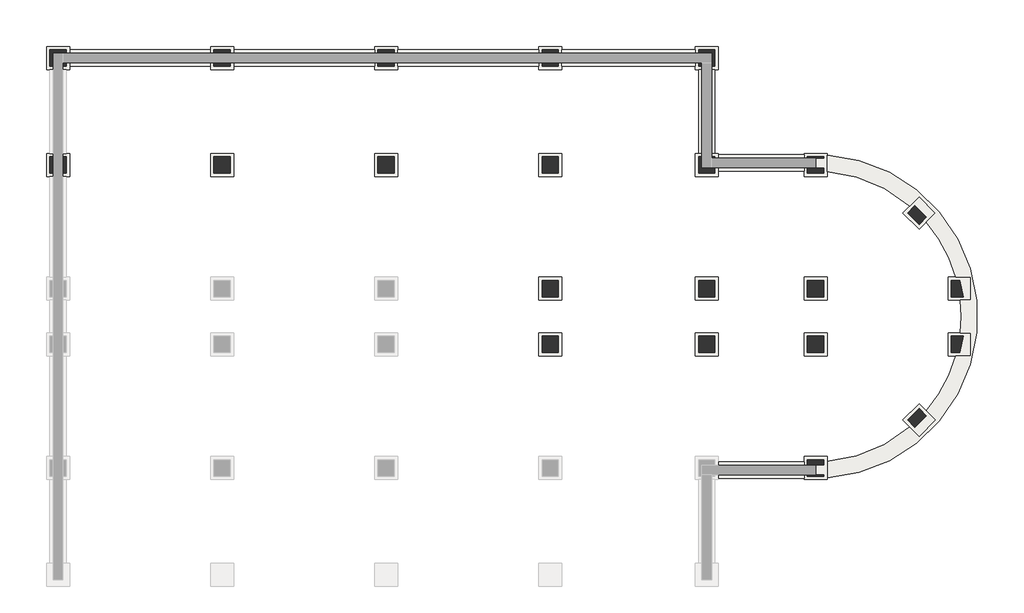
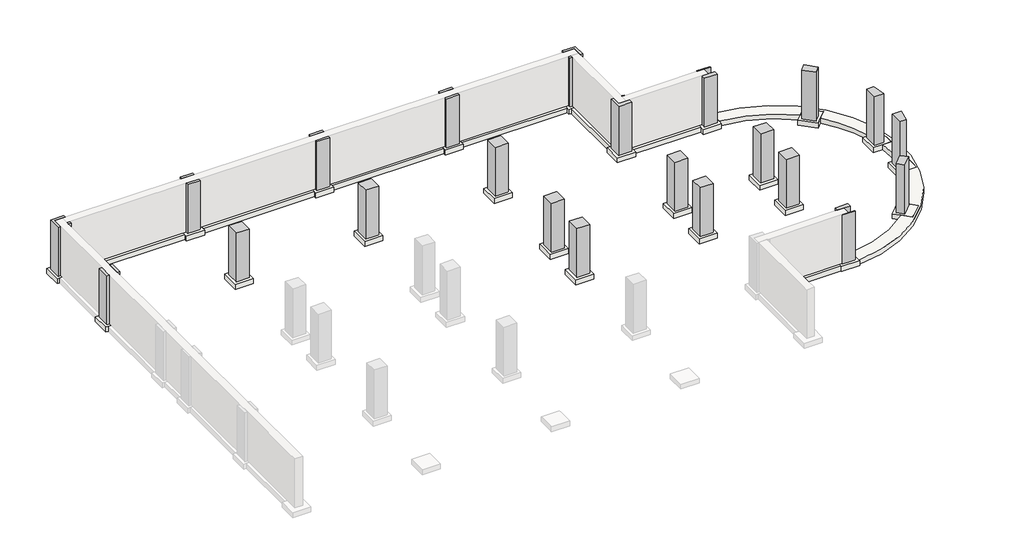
# One storey, part 2 of 2: 22 columns, 22 slabs, 5 footings.
"""IFC4 building model written with IfcOpenShell, lengths in millimetres."""

from ifc_helpers import new_model, si_unit, point, frame, frame_2d, origin, place, context, project, spatial, polyline, circle_curve, trimmed, segment, composite_curve, outline, extrude, faceted_brep, transform, mapped, element, save
from components import column_99cc3399, slab_3b9d1f00

model = new_model("IFC4")

# Units and contexts
model_context = context("Model", 3, world=origin())
ifc_project = project(units=[si_unit("LENGTHUNIT", "METRE", prefix="MILLI")], contexts=[model_context])

# Site, building, storey
site = spatial("IfcSite", under=ifc_project)
building = spatial("IfcBuilding", under=site)
storey = spatial("IfcBuildingStorey", under=building, Name="T.O.FOOTING", Elevation=-3048.0)

# Columns
placement = place(None, origin())
element("IfcColumn", 1, ObjectType="Concrete-Rectangular-Column : 2'-6\" x 2'-6\"", at=placement, inside=storey, context=model_context, shape_type="Brep", body=[
    faceted_brep([(-17623.6535279, 9128.9773319, -3048.0), (-17623.6535279, 9890.9773319, -3048.0), (-16861.6535279, 9890.9773319, -3048.0), (-16861.6535279, 9738.5773319, -3048.0), (-17014.0535279, 9738.5773319, -3048.0), (-17471.2535279, 9738.5773319, -3048.0), (-17471.2535279, 9128.9773319, -3048.0), (-17623.6535279, 9128.9773319, 0.0), (-17471.2535279, 9128.9773319, 0.0), (-17623.6535279, 9890.9773319, 0.0), (-16861.6535279, 9890.9773319, 0.0), (-17471.2535279, 9738.5773319, 0.0), (-16861.6535279, 9738.5773319, 0.0), (-17014.0535279, 9738.5773319, 0.0)], [[[0, 1, 2, 3, 4, 5, 6]], [[7, 0, 6, 8]], [[1, 0, 7, 9]], [[2, 1, 9, 10]], [[5, 11, 8, 6]], [[11, 5, 4, 3, 12, 13]], [[2, 10, 12, 3]], [[9, 7, 8, 11, 13, 12, 10]]]),
    faceted_brep([(-16861.6535279, 9128.9773319, 0.0), (-16861.6535279, 9128.9773319, -3048.0), (-16861.6535279, 9281.3773319, -3048.0), (-16861.6535279, 9281.3773319, 0.0), (-17014.0535279, 9128.9773319, 0.0), (-17014.0535279, 9281.3773319, 0.0), (-17014.0535279, 9128.9773319, -3048.0), (-17014.0535279, 9281.3773319, -3048.0)], [[[0, 1, 2, 3]], [[4, 0, 3, 5]], [[6, 4, 5, 7]], [[1, 0, 4, 6]], [[2, 7, 5, 3]], [[1, 6, 7, 2]]]),
])
element("IfcColumn", 2, ObjectType="Concrete-Rectangular-Column : 2'-6\" x 2'-6\"", at=placement, inside=storey, context=model_context, shape_type="SweptSolid", body=[
    extrude(outline(polyline([(-17623.6535279, 4153.7523319), (-17623.6535279, 4915.7523319), (-17471.2535279, 4915.7523319), (-17471.2535279, 4153.7523319), (-17623.6535279, 4153.7523319)])), frame((0.0, 0.0, -3048.0), z_axis=(0.0, 0.0, 1.0), x_axis=(1.0, 0.0, 0.0)), (0.0, 0.0, 1.0), 3048.0),
    extrude(outline(polyline([(-16861.6535279, 4915.7523319), (-16861.6535279, 4153.7523319), (-17014.0535279, 4153.7523319), (-17014.0535279, 4915.7523319), (-16861.6535279, 4915.7523319)])), frame((0.0, 0.0, -3048.0), z_axis=(0.0, 0.0, 1.0), x_axis=(1.0, 0.0, 0.0)), (0.0, 0.0, 1.0), 3048.0),
])
element("IfcColumn", 3, ObjectType="Concrete-Rectangular-Column : 2'-6\" x 2'-6\"", at=placement, inside=storey, context=model_context, shape_type="SweptSolid", body=[
    extrude(outline(polyline([(-10003.6535279, 9890.9773319), (-9241.6535279, 9890.9773319), (-9241.6535279, 9738.5773319), (-10003.6535279, 9738.5773319), (-10003.6535279, 9890.9773319)])), frame((0.0, 0.0, -3048.0), z_axis=(0.0, 0.0, 1.0), x_axis=(1.0, 0.0, 0.0)), (0.0, 0.0, 1.0), 3048.0),
    extrude(outline(polyline([(-9241.6535279, 9128.9773319), (-10003.6535279, 9128.9773319), (-10003.6535279, 9281.3773319), (-9241.6535279, 9281.3773319), (-9241.6535279, 9128.9773319)])), frame((0.0, 0.0, -3048.0), z_axis=(0.0, 0.0, 1.0), x_axis=(1.0, 0.0, 0.0)), (0.0, 0.0, 1.0), 3048.0),
])
element("IfcColumn", 4, ObjectType="Concrete-Rectangular-Column : 2'-6\" x 2'-6\"", at=placement, inside=storey, context=model_context, shape_type="SweptSolid", body=[
    extrude(outline(polyline([(-2383.6535279, 9890.9773319), (-1621.6535279, 9890.9773319), (-1621.6535279, 9738.5773319), (-2383.6535279, 9738.5773319), (-2383.6535279, 9890.9773319)])), frame((0.0, 0.0, -3048.0), z_axis=(0.0, 0.0, 1.0), x_axis=(1.0, 0.0, 0.0)), (0.0, 0.0, 1.0), 3048.0),
    extrude(outline(polyline([(-1621.6535279, 9128.9773319), (-2383.6535279, 9128.9773319), (-2383.6535279, 9281.3773319), (-1621.6535279, 9281.3773319), (-1621.6535279, 9128.9773319)])), frame((0.0, 0.0, -3048.0), z_axis=(0.0, 0.0, 1.0), x_axis=(1.0, 0.0, 0.0)), (0.0, 0.0, 1.0), 3048.0),
])
element("IfcColumn", 5, ObjectType="Concrete-Rectangular-Column : 2'-6\" x 2'-6\"", at=placement, inside=storey, context=model_context, shape_type="SweptSolid", body=[
    extrude(outline(polyline([(5236.3464721, 9890.9773319), (5998.3464721, 9890.9773319), (5998.3464721, 9738.5773319), (5236.3464721, 9738.5773319), (5236.3464721, 9890.9773319)])), frame((0.0, 0.0, -3048.0), z_axis=(0.0, 0.0, 1.0), x_axis=(1.0, 0.0, 0.0)), (0.0, 0.0, 1.0), 3048.0),
    extrude(outline(polyline([(5998.3464721, 9128.9773319), (5236.3464721, 9128.9773319), (5236.3464721, 9281.3773319), (5998.3464721, 9281.3773319), (5998.3464721, 9128.9773319)])), frame((0.0, 0.0, -3048.0), z_axis=(0.0, 0.0, 1.0), x_axis=(1.0, 0.0, 0.0)), (0.0, 0.0, 1.0), 3048.0),
])
element("IfcColumn", 6, ObjectType="Concrete-Rectangular-Column : 2'-6\" x 2'-6\"", at=placement, inside=storey, context=model_context, shape_type="Brep", body=[
    faceted_brep([(12503.9214721, 9128.9773319, -3048.0), (12503.9214721, 9281.3773319, -3048.0), (12656.3214721, 9281.3773319, -3048.0), (12656.3214721, 9128.9773319, -3048.0), (12503.9214721, 9128.9773319, 0.0), (12656.3214721, 9128.9773319, 0.0), (12503.9214721, 9281.3773319, 0.0), (12656.3214721, 9281.3773319, 0.0)], [[[0, 1, 2, 3]], [[4, 0, 3, 5]], [[1, 6, 7, 2]], [[0, 4, 6, 1]], [[3, 2, 7, 5]], [[6, 4, 5, 7]]]),
    faceted_brep([(13265.9214721, 9128.9773319, -3048.0), (13265.9214721, 9890.9773319, -3048.0), (13265.9214721, 9890.9773319, 0.0), (13265.9214721, 9128.9773319, 0.0), (12503.9214721, 9890.9773319, 0.0), (12503.9214721, 9890.9773319, -3048.0), (12503.9214721, 9738.5773319, -3048.0), (12503.9214721, 9738.5773319, 0.0), (13113.5214721, 9738.5773319, 0.0), (13113.5214721, 9281.3773319, 0.0), (13113.5214721, 9128.9773319, 0.0), (13113.5214721, 9738.5773319, -3048.0), (13113.5214721, 9281.3773319, -3048.0), (13113.5214721, 9128.9773319, -3048.0)], [[[0, 1, 2, 3]], [[4, 5, 6, 7]], [[1, 5, 4, 2]], [[3, 2, 4, 7, 8, 9, 10]], [[11, 8, 7, 6]], [[8, 11, 12, 13, 10, 9]], [[1, 0, 13, 12, 11, 6, 5]], [[0, 3, 10, 13]]]),
])
element("IfcColumn", 7, ObjectType="Concrete-Rectangular-Column : 2'-6\" x 2'-6\"", at=placement, inside=storey, context=model_context, shape_type="Brep", body=[
    faceted_brep([(13113.5214721, 4915.7523319, -3048.0), (13265.9214721, 4915.7523319, -3048.0), (13265.9214721, 4861.7773319, -3048.0), (13113.5214721, 4861.7773319, -3048.0), (13265.9214721, 4915.7523319, 0.0), (13113.5214721, 4915.7523319, 0.0), (13113.5214721, 4861.7773319, 0.0), (13265.9214721, 4861.7773319, 0.0)], [[[0, 1, 2, 3]], [[4, 5, 6, 7]], [[5, 0, 3, 6]], [[4, 1, 0, 5]], [[3, 2, 7, 6]], [[1, 4, 7, 2]]]),
    faceted_brep([(13265.9214721, 4153.7523319, 0.0), (13265.9214721, 4153.7523319, -3048.0), (13265.9214721, 4404.5773319, -3048.0), (13265.9214721, 4404.5773319, 0.0), (12503.9214721, 4153.7523319, -3048.0), (12503.9214721, 4153.7523319, 0.0), (12503.9214721, 4915.7523319, -3048.0), (12503.9214721, 4915.7523319, 0.0), (12656.3214721, 4915.7523319, 0.0), (12656.3214721, 4915.7523319, -3048.0), (12656.3214721, 4404.5773319, 0.0), (12656.3214721, 4404.5773319, -3048.0), (13113.5214721, 4404.5773319, 0.0), (13113.5214721, 4404.5773319, -3048.0)], [[[0, 1, 2, 3]], [[4, 1, 0, 5]], [[6, 4, 5, 7]], [[6, 7, 8, 9]], [[10, 11, 9, 8]], [[11, 10, 12, 3, 2, 13]], [[1, 4, 6, 9, 11, 13, 2]], [[5, 0, 3, 12, 10, 8, 7]]]),
])
element("IfcColumn", 8, ObjectType="Concrete-Rectangular-Column : 2'-6\" x 2'-6\"", at=placement, inside=storey, context=model_context, shape_type="SweptSolid", body=[
    extrude(outline(composite_curve([segment(polyline([(17556.9339721, 4915.7523319), (18318.9339721, 4915.7523319), (18318.9339721, 4851.9194118)]), True, "CONTINUOUS"), segment(trimmed(circle_curve(frame_2d((17937.9339721, -2505.8101681)), 7367.5875), [point((18318.9339721, 4851.9194118))], [point((17937.9339721, 4861.7773319))], True, "CARTESIAN"), True, "CONTINUOUS"), segment(polyline([(17937.9339721, 4861.7773319), (17556.9339721, 4861.7773319), (17556.9339721, 4915.7523319)]), True, "CONTINUOUS")], self_intersect=False)), frame((0.0, 0.0, -3048.0), z_axis=(0.0, 0.0, 1.0), x_axis=(1.0, 0.0, 0.0)), (0.0, 0.0, 1.0), 3048.0),
    extrude(outline(composite_curve([segment(polyline([(18318.9339721, 4153.7523319), (17556.9339721, 4153.7523319), (17556.9339721, 4404.5773319), (17937.9339721, 4404.5773319)]), True, "CONTINUOUS"), segment(trimmed(circle_curve(frame_2d((17937.9339721, -2505.8101681)), 6910.3875), [point((17937.9339721, 4404.5773319))], [point((18318.9339721, 4394.0662366))], False, "CARTESIAN"), True, "CONTINUOUS"), segment(polyline([(18318.9339721, 4394.0662366), (18318.9339721, 4153.7523319)]), True, "CONTINUOUS")], self_intersect=False)), frame((0.0, 0.0, -3048.0), z_axis=(0.0, 0.0, 1.0), x_axis=(1.0, 0.0, 0.0)), (0.0, 0.0, 1.0), 3048.0),
])
element("IfcColumn", 9, ObjectType="Concrete-Rectangular-Column : 2'-6\" x 2'-6\"", at=placement, inside=storey, context=model_context, shape_type="SweptSolid", body=[
    extrude(outline(composite_curve([segment(polyline([(17556.9339721, -9165.3726681), (18318.9339721, -9165.3726681), (18318.9339721, -9405.6865728)]), True, "CONTINUOUS"), segment(trimmed(circle_curve(frame_2d((17937.9339721, -2505.8101681)), 6910.3875), [point((18318.9339721, -9405.6865728))], [point((17937.9339721, -9416.1976681))], False, "CARTESIAN"), True, "CONTINUOUS"), segment(polyline([(17937.9339721, -9416.1976681), (17556.9339721, -9416.1976681), (17556.9339721, -9165.3726681)]), True, "CONTINUOUS")], self_intersect=False)), frame((0.0, 0.0, -3048.0), z_axis=(0.0, 0.0, 1.0), x_axis=(1.0, 0.0, 0.0)), (0.0, 0.0, 1.0), 3048.0),
    extrude(outline(composite_curve([segment(polyline([(18318.9339721, -9927.3726681), (17556.9339721, -9927.3726681), (17556.9339721, -9873.3976681), (17937.9339721, -9873.3976681)]), True, "CONTINUOUS"), segment(trimmed(circle_curve(frame_2d((17937.9339721, -2505.8101681)), 7367.5875), [point((17937.9339721, -9873.3976681))], [point((18318.9339721, -9863.5397479))], True, "CARTESIAN"), True, "CONTINUOUS"), segment(polyline([(18318.9339721, -9863.5397479), (18318.9339721, -9927.3726681)]), True, "CONTINUOUS")], self_intersect=False)), frame((0.0, 0.0, -3048.0), z_axis=(0.0, 0.0, 1.0), x_axis=(1.0, 0.0, 0.0)), (0.0, 0.0, 1.0), 3048.0),
])
element("IfcColumn", 10, ObjectType="Concrete-Rectangular-Column : 2'-6\" x 2'-6\"", at=placement, inside=storey, context=model_context, shape_type="SweptSolid", body=[
    extrude(outline(composite_curve([segment(polyline([(24242.6673698, -1589.8226681), (24242.6673698, -827.8226681), (24641.5011829, -827.8226681)]), True, "CONTINUOUS"), segment(trimmed(circle_curve(frame_2d((17937.9339721, -2505.8101681)), 6910.3875), [point((24641.5011829, -827.8226681))], [point((24787.3443336, -1589.8226681))], False, "CARTESIAN"), True, "CONTINUOUS"), segment(polyline([(24787.3443336, -1589.8226681), (24242.6673698, -1589.8226681)]), True, "CONTINUOUS")], self_intersect=False)), frame((0.0, 0.0, -3048.0), z_axis=(0.0, 0.0, 1.0), x_axis=(1.0, 0.0, 0.0)), (0.0, 0.0, 1.0), 3048.0),
])
element("IfcColumn", 11, ObjectType="Concrete-Rectangular-Column : 2'-6\" x 2'-6\"", at=placement, inside=storey, context=model_context, shape_type="SweptSolid", body=[
    extrude(outline(composite_curve([segment(polyline([(24242.6673698, -4183.7976681), (24242.6673698, -3421.7976681), (24787.3443336, -3421.7976681)]), True, "CONTINUOUS"), segment(trimmed(circle_curve(frame_2d((17937.9339721, -2505.8101681)), 6910.3875), [point((24787.3443336, -3421.7976681))], [point((24641.5011829, -4183.7976681))], False, "CARTESIAN"), True, "CONTINUOUS"), segment(polyline([(24641.5011829, -4183.7976681), (24242.6673698, -4183.7976681)]), True, "CONTINUOUS")], self_intersect=False)), frame((0.0, 0.0, -3048.0), z_axis=(0.0, 0.0, 1.0), x_axis=(1.0, 0.0, 0.0)), (0.0, 0.0, 1.0), 3048.0),
])
element("IfcColumn", 12, ObjectType="Concrete-Rectangular-Column : 2'-6\" x 2'-6\"", at=placement, inside=storey, context=model_context, shape_type="SweptSolid", body=[
    extrude(outline(composite_curve([segment(polyline([(22753.596317, 1771.0368096), (22214.7809498, 2309.8521769), (22547.4756836, 2642.5469107)]), True, "CONTINUOUS"), segment(trimmed(circle_curve(frame_2d((17937.9339721, -2505.8101681)), 6910.3875), [point((22547.4756836, 2642.5469107))], [point((23086.2910508, 2103.7315434))], False, "CARTESIAN"), True, "CONTINUOUS"), segment(polyline([(23086.2910508, 2103.7315434), (22753.596317, 1771.0368096)]), True, "CONTINUOUS")], self_intersect=False)), frame((0.0, 0.0, -3048.0), z_axis=(0.0, 0.0, 1.0), x_axis=(1.0, 0.0, 0.0)), (0.0, 0.0, 1.0), 3048.0),
])
element("IfcColumn", 13, ObjectType="Concrete-Rectangular-Column : 2'-6\" x 2'-6\"", at=placement, inside=storey, context=model_context, shape_type="SweptSolid", body=[
    extrude(outline(composite_curve([segment(polyline([(22214.7809498, -7321.472513), (22753.596317, -6782.6571457), (23086.2910508, -7115.3518796)]), True, "CONTINUOUS"), segment(trimmed(circle_curve(frame_2d((17937.9339721, -2505.8101681)), 6910.3875), [point((23086.2910508, -7115.3518796))], [point((22547.4756836, -7654.1672468))], False, "CARTESIAN"), True, "CONTINUOUS"), segment(polyline([(22547.4756836, -7654.1672468), (22214.7809498, -7321.472513)]), True, "CONTINUOUS")], self_intersect=False)), frame((0.0, 0.0, -3048.0), z_axis=(0.0, 0.0, 1.0), x_axis=(1.0, 0.0, 0.0)), (0.0, 0.0, 1.0), 3048.0),
])
column_shape = column_99cc3399(model_context)
element("IfcColumn", 14, ObjectType="Concrete-Rectangular-Column : 2'-6\" x 2'-6\"", at=placement, inside=storey, context=model_context, shape_type="MappedRepresentation", body=[
    mapped(column_shape, transform((-9622.6535279, 4534.7523319, 0.0), x_axis=(1.0, 0.0, 0.0), y_axis=(0.0, 1.0, 0.0), z_axis=(0.0, 0.0, 1.0))),
])
element("IfcColumn", 15, ObjectType="Concrete-Rectangular-Column : 2'-6\" x 2'-6\"", at=placement, inside=storey, context=model_context, shape_type="MappedRepresentation", body=[
    mapped(column_shape, transform((-2002.6535279, 4534.7523319, 0.0), x_axis=(1.0, 0.0, 0.0), y_axis=(0.0, 1.0, 0.0), z_axis=(0.0, 0.0, 1.0))),
])
element("IfcColumn", 16, ObjectType="Concrete-Rectangular-Column : 2'-6\" x 2'-6\"", at=placement, inside=storey, context=model_context, shape_type="MappedRepresentation", body=[
    mapped(column_shape, transform((5617.3464721, 4534.7523319, 0.0), x_axis=(1.0, 0.0, 0.0), y_axis=(0.0, 1.0, 0.0), z_axis=(0.0, 0.0, 1.0))),
])
element("IfcColumn", 17, ObjectType="Concrete-Rectangular-Column : 2'-6\" x 2'-6\"", at=placement, inside=storey, context=model_context, shape_type="MappedRepresentation", body=[
    mapped(column_shape, transform((5617.3464721, -1208.8226681, 0.0), x_axis=(1.0, 0.0, 0.0), y_axis=(0.0, 1.0, 0.0), z_axis=(0.0, 0.0, 1.0))),
])
element("IfcColumn", 18, ObjectType="Concrete-Rectangular-Column : 2'-6\" x 2'-6\"", at=placement, inside=storey, context=model_context, shape_type="MappedRepresentation", body=[
    mapped(column_shape, transform((5617.3464721, -3802.7976681, 0.0), x_axis=(1.0, 0.0, 0.0), y_axis=(0.0, 1.0, 0.0), z_axis=(0.0, 0.0, 1.0))),
])
element("IfcColumn", 19, ObjectType="Concrete-Rectangular-Column : 2'-6\" x 2'-6\"", at=placement, inside=storey, context=model_context, shape_type="MappedRepresentation", body=[
    mapped(column_shape, transform((12884.9214721, -1208.8226681, 0.0), x_axis=(1.0, 0.0, 0.0), y_axis=(0.0, 1.0, 0.0), z_axis=(0.0, 0.0, 1.0))),
])
element("IfcColumn", 20, ObjectType="Concrete-Rectangular-Column : 2'-6\" x 2'-6\"", at=placement, inside=storey, context=model_context, shape_type="MappedRepresentation", body=[
    mapped(column_shape, transform((12884.9214721, -3802.7976681, 0.0), x_axis=(1.0, 0.0, 0.0), y_axis=(0.0, 1.0, 0.0), z_axis=(0.0, 0.0, 1.0))),
])
element("IfcColumn", 21, ObjectType="Concrete-Rectangular-Column : 2'-6\" x 2'-6\"", at=placement, inside=storey, context=model_context, shape_type="MappedRepresentation", body=[
    mapped(column_shape, transform((17937.9339721, -1208.8226681, 0.0), x_axis=(1.0, 0.0, 0.0), y_axis=(0.0, 1.0, 0.0), z_axis=(0.0, 0.0, 1.0))),
])
element("IfcColumn", 22, ObjectType="Concrete-Rectangular-Column : 2'-6\" x 2'-6\"", at=placement, inside=storey, context=model_context, shape_type="MappedRepresentation", body=[
    mapped(column_shape, transform((17937.9339721, -3802.7976681, 0.0), x_axis=(1.0, 0.0, 0.0), y_axis=(0.0, 1.0, 0.0), z_axis=(0.0, 0.0, 1.0))),
])

# Footings
element("IfcFooting", 23, ObjectType="Bearing Footing -2'-6\" x 12\"", at=placement, inside=storey, context=model_context, shape_type="SweptSolid", body=[
    extrude(outline(polyline([(-16709.2535279, 9128.9773319), (-16709.2535279, 9890.9773319), (-10156.0535279, 9890.9773319), (-10156.0535279, 9128.9773319), (-16709.2535279, 9128.9773319)])), frame((0.0, 0.0, -3352.8), z_axis=(0.0, 0.0, 1.0), x_axis=(1.0, 0.0, 0.0)), (0.0, 0.0, 1.0), 304.8),
    extrude(outline(polyline([(-9089.2535279, 9128.9773319), (-9089.2535279, 9890.9773319), (-2536.0535279, 9890.9773319), (-2536.0535279, 9128.9773319), (-9089.2535279, 9128.9773319)])), frame((0.0, 0.0, -3352.8), z_axis=(0.0, 0.0, 1.0), x_axis=(1.0, 0.0, 0.0)), (0.0, 0.0, 1.0), 304.8),
    extrude(outline(polyline([(-1469.2535279, 9128.9773319), (-1469.2535279, 9890.9773319), (5083.9464721, 9890.9773319), (5083.9464721, 9128.9773319), (-1469.2535279, 9128.9773319)])), frame((0.0, 0.0, -3352.8), z_axis=(0.0, 0.0, 1.0), x_axis=(1.0, 0.0, 0.0)), (0.0, 0.0, 1.0), 304.8),
    extrude(outline(polyline([(6150.7464721, 9128.9773319), (6150.7464721, 9890.9773319), (12351.5214721, 9890.9773319), (12351.5214721, 9128.9773319), (6150.7464721, 9128.9773319)])), frame((0.0, 0.0, -3352.8), z_axis=(0.0, 0.0, 1.0), x_axis=(1.0, 0.0, 0.0)), (0.0, 0.0, 1.0), 304.8),
])
element("IfcFooting", 24, ObjectType="Bearing Footing -2'-6\" x 12\"", at=placement, inside=storey, context=model_context, shape_type="SweptSolid", body=[
    extrude(outline(polyline([(12503.9214721, 8976.5773319), (13265.9214721, 8976.5773319), (13265.9214721, 5068.1523319), (12503.9214721, 5068.1523319), (12503.9214721, 8976.5773319)])), frame((0.0, 0.0, -3352.8), z_axis=(0.0, 0.0, 1.0), x_axis=(1.0, 0.0, 0.0)), (0.0, 0.0, 1.0), 304.8),
])
element("IfcFooting", 25, ObjectType="Bearing Footing -2'-6\" x 12\"", at=placement, inside=storey, context=model_context, shape_type="SweptSolid", body=[
    extrude(outline(polyline([(13418.3214721, 4252.1773319), (13418.3214721, 5014.1773319), (17404.5339721, 5014.1773319), (17404.5339721, 4252.1773319), (13418.3214721, 4252.1773319)])), frame((0.0, 0.0, -3352.8), z_axis=(0.0, 0.0, 1.0), x_axis=(1.0, 0.0, 0.0)), (0.0, 0.0, 1.0), 304.8),
])
element("IfcFooting", 26, ObjectType="Bearing Footing -2'-6\" x 12\"", at=placement, inside=storey, context=model_context, shape_type="SweptSolid", body=[
    extrude(outline(composite_curve([segment(polyline([(18471.3339721, 4231.0941277), (18471.3339721, 4995.2361883)]), True, "CONTINUOUS"), segment(trimmed(circle_curve(frame_2d((17937.9339721, -2505.8101681)), 7519.9875), [point((18471.3339721, 4995.2361883))], [point((18471.3339721, -10006.8565244))], False, "CARTESIAN"), True, "CONTINUOUS"), segment(polyline([(18471.3339721, -10006.8565244), (18471.3339721, -9242.7144638)]), True, "CONTINUOUS"), segment(trimmed(circle_curve(frame_2d((17937.9339721, -2505.8101681)), 6757.9875), [point((18471.3339721, -9242.7144638))], [point((22324.4739268, -7646.6916369))], True, "CARTESIAN"), True, "CONTINUOUS"), segment(polyline([(22324.4739268, -7646.6916369), (22753.596317, -8075.8140272), (23507.9378312, -7321.472513), (23078.8154409, -6892.3501227)]), True, "CONTINUOUS"), segment(trimmed(circle_curve(frame_2d((17937.9339721, -2505.8101681)), 6757.9875), [point((23078.8154409, -6892.3501227))], [point((24443.3222503, -4336.1976681))], True, "CARTESIAN"), True, "CONTINUOUS"), segment(polyline([(24443.3222503, -4336.1976681), (25157.0673698, -4336.1976681), (25157.0673698, -3269.3976681), (24652.6438824, -3269.3976681)]), True, "CONTINUOUS"), segment(trimmed(circle_curve(frame_2d((17937.9339721, -2505.8101681)), 6757.9875), [point((24652.6438824, -3269.3976681))], [point((24652.6438824, -1742.2226681))], True, "CARTESIAN"), True, "CONTINUOUS"), segment(polyline([(24652.6438824, -1742.2226681), (25157.0673698, -1742.2226681), (25157.0673698, -675.4226681), (24443.3222503, -675.4226681)]), True, "CONTINUOUS"), segment(trimmed(circle_curve(frame_2d((17937.9339721, -2505.8101681)), 6757.9875), [point((24443.3222503, -675.4226681))], [point((23078.8154409, 1880.7297866))], True, "CARTESIAN"), True, "CONTINUOUS"), segment(polyline([(23078.8154409, 1880.7297866), (23507.9378312, 2309.8521769), (22753.596317, 3064.193691), (22324.4739268, 2635.0713007)]), True, "CONTINUOUS"), segment(trimmed(circle_curve(frame_2d((17937.9339721, -2505.8101681)), 6757.9875), [point((22324.4739268, 2635.0713007))], [point((18471.3339721, 4231.0941277))], True, "CARTESIAN"), True, "CONTINUOUS")], self_intersect=False)), frame((0.0, 0.0, -3352.8), z_axis=(0.0, 0.0, 1.0), x_axis=(1.0, 0.0, 0.0)), (0.0, 0.0, 1.0), 304.8),
])
element("IfcFooting", 27, ObjectType="Bearing Footing -2'-6\" x 12\"", at=placement, inside=storey, context=model_context, shape_type="SweptSolid", body=[
    extrude(outline(polyline([(13418.3214721, -10025.7976681), (13418.3214721, -9263.7976681), (17404.5339721, -9263.7976681), (17404.5339721, -10025.7976681), (13418.3214721, -10025.7976681)])), frame((0.0, 0.0, -3352.8), z_axis=(0.0, 0.0, 1.0), x_axis=(1.0, 0.0, 0.0)), (0.0, 0.0, 1.0), 304.8),
])

# Slabs
element("IfcSlab", 28, ObjectType="Footing-Rectangular : 3'-6\" x 3'-6\" x 12\"", at=placement, inside=storey, context=model_context, shape_type="Brep", body=[
    faceted_brep([(-16709.2535279, 10043.3773319, -3048.0), (-17776.0535279, 10043.3773319, -3048.0), (-17776.0535279, 8976.5773319, -3048.0), (-17623.6535279, 8976.5773319, -3048.0), (-16861.6535279, 8976.5773319, -3048.0), (-16709.2535279, 8976.5773319, -3048.0), (-16709.2535279, 9128.9773319, -3048.0), (-16709.2535279, 9890.9773319, -3048.0), (-16709.2535279, 10043.3773319, -3352.8), (-16709.2535279, 9890.9773319, -3352.8), (-16709.2535279, 9128.9773319, -3352.8), (-16709.2535279, 8976.5773319, -3352.8), (-16861.6535279, 8976.5773319, -3352.8), (-17623.6535279, 8976.5773319, -3352.8), (-17776.0535279, 8976.5773319, -3352.8), (-17776.0535279, 10043.3773319, -3352.8)], [[[0, 1, 2, 3, 4, 5, 6, 7]], [[8, 9, 10, 11, 12, 13, 14, 15]], [[1, 0, 8, 15]], [[2, 1, 15, 14]], [[5, 4, 3, 2, 14, 13, 12, 11]], [[0, 7, 6, 5, 11, 10, 9, 8]]]),
])
element("IfcSlab", 29, ObjectType="Footing-Rectangular : 3'-6\" x 3'-6\" x 12\"", at=placement, inside=storey, context=model_context, shape_type="Brep", body=[
    faceted_brep([(-16709.2535279, 5068.1523319, -3048.0), (-16861.6535279, 5068.1523319, -3048.0), (-17623.6535279, 5068.1523319, -3048.0), (-17776.0535279, 5068.1523319, -3048.0), (-17776.0535279, 4001.3523319, -3048.0), (-17623.6535279, 4001.3523319, -3048.0), (-16861.6535279, 4001.3523319, -3048.0), (-16709.2535279, 4001.3523319, -3048.0), (-16709.2535279, 5068.1523319, -3352.8), (-16709.2535279, 4001.3523319, -3352.8), (-16861.6535279, 4001.3523319, -3352.8), (-17623.6535279, 4001.3523319, -3352.8), (-17776.0535279, 4001.3523319, -3352.8), (-17776.0535279, 5068.1523319, -3352.8), (-17623.6535279, 5068.1523319, -3352.8), (-16861.6535279, 5068.1523319, -3352.8)], [[[0, 1, 2, 3, 4, 5, 6, 7]], [[8, 9, 10, 11, 12, 13, 14, 15]], [[3, 2, 1, 0, 8, 15, 14, 13]], [[4, 3, 13, 12]], [[7, 6, 5, 4, 12, 11, 10, 9]], [[0, 7, 9, 8]]]),
])
element("IfcSlab", 30, ObjectType="Footing-Rectangular : 3'-6\" x 3'-6\" x 12\"", at=placement, inside=storey, context=model_context, shape_type="Brep", body=[
    faceted_brep([(-9089.2535279, 10043.3773319, -3048.0), (-10156.0535279, 10043.3773319, -3048.0), (-10156.0535279, 9890.9773319, -3048.0), (-10156.0535279, 9128.9773319, -3048.0), (-10156.0535279, 8976.5773319, -3048.0), (-9089.2535279, 8976.5773319, -3048.0), (-9089.2535279, 9128.9773319, -3048.0), (-9089.2535279, 9890.9773319, -3048.0), (-9089.2535279, 10043.3773319, -3352.8), (-9089.2535279, 9890.9773319, -3352.8), (-9089.2535279, 9128.9773319, -3352.8), (-9089.2535279, 8976.5773319, -3352.8), (-10156.0535279, 8976.5773319, -3352.8), (-10156.0535279, 9128.9773319, -3352.8), (-10156.0535279, 9890.9773319, -3352.8), (-10156.0535279, 10043.3773319, -3352.8)], [[[0, 1, 2, 3, 4, 5, 6, 7]], [[8, 9, 10, 11, 12, 13, 14, 15]], [[1, 0, 8, 15]], [[4, 3, 2, 1, 15, 14, 13, 12]], [[5, 4, 12, 11]], [[0, 7, 6, 5, 11, 10, 9, 8]]]),
])
element("IfcSlab", 31, ObjectType="Footing-Rectangular : 3'-6\" x 3'-6\" x 12\"", at=placement, inside=storey, context=model_context, shape_type="Brep", body=[
    faceted_brep([(-1469.2535279, 10043.3773319, -3048.0), (-2536.0535279, 10043.3773319, -3048.0), (-2536.0535279, 9890.9773319, -3048.0), (-2536.0535279, 9128.9773319, -3048.0), (-2536.0535279, 8976.5773319, -3048.0), (-1469.2535279, 8976.5773319, -3048.0), (-1469.2535279, 9128.9773319, -3048.0), (-1469.2535279, 9890.9773319, -3048.0), (-1469.2535279, 10043.3773319, -3352.8), (-1469.2535279, 9890.9773319, -3352.8), (-1469.2535279, 9128.9773319, -3352.8), (-1469.2535279, 8976.5773319, -3352.8), (-2536.0535279, 8976.5773319, -3352.8), (-2536.0535279, 9128.9773319, -3352.8), (-2536.0535279, 9890.9773319, -3352.8), (-2536.0535279, 10043.3773319, -3352.8)], [[[0, 1, 2, 3, 4, 5, 6, 7]], [[8, 9, 10, 11, 12, 13, 14, 15]], [[1, 0, 8, 15]], [[4, 3, 2, 1, 15, 14, 13, 12]], [[5, 4, 12, 11]], [[0, 7, 6, 5, 11, 10, 9, 8]]]),
])
element("IfcSlab", 32, ObjectType="Footing-Rectangular : 3'-6\" x 3'-6\" x 12\"", at=placement, inside=storey, context=model_context, shape_type="Brep", body=[
    faceted_brep([(6150.7464721, 10043.3773319, -3048.0), (5083.9464721, 10043.3773319, -3048.0), (5083.9464721, 9890.9773319, -3048.0), (5083.9464721, 9128.9773319, -3048.0), (5083.9464721, 8976.5773319, -3048.0), (6150.7464721, 8976.5773319, -3048.0), (6150.7464721, 9128.9773319, -3048.0), (6150.7464721, 9890.9773319, -3048.0), (6150.7464721, 10043.3773319, -3352.8), (6150.7464721, 9890.9773319, -3352.8), (6150.7464721, 9128.9773319, -3352.8), (6150.7464721, 8976.5773319, -3352.8), (5083.9464721, 8976.5773319, -3352.8), (5083.9464721, 9128.9773319, -3352.8), (5083.9464721, 9890.9773319, -3352.8), (5083.9464721, 10043.3773319, -3352.8)], [[[0, 1, 2, 3, 4, 5, 6, 7]], [[8, 9, 10, 11, 12, 13, 14, 15]], [[1, 0, 8, 15]], [[4, 3, 2, 1, 15, 14, 13, 12]], [[5, 4, 12, 11]], [[0, 7, 6, 5, 11, 10, 9, 8]]]),
])
element("IfcSlab", 33, ObjectType="Footing-Rectangular : 3'-6\" x 3'-6\" x 12\"", at=placement, inside=storey, context=model_context, shape_type="Brep", body=[
    faceted_brep([(13418.3214721, 10043.3773319, -3048.0), (12351.5214721, 10043.3773319, -3048.0), (12351.5214721, 9890.9773319, -3048.0), (12351.5214721, 9128.9773319, -3048.0), (12351.5214721, 8976.5773319, -3048.0), (12503.9214721, 8976.5773319, -3048.0), (13265.9214721, 8976.5773319, -3048.0), (13418.3214721, 8976.5773319, -3048.0), (13418.3214721, 10043.3773319, -3352.8), (13418.3214721, 8976.5773319, -3352.8), (13265.9214721, 8976.5773319, -3352.8), (12503.9214721, 8976.5773319, -3352.8), (12351.5214721, 8976.5773319, -3352.8), (12351.5214721, 9128.9773319, -3352.8), (12351.5214721, 9890.9773319, -3352.8), (12351.5214721, 10043.3773319, -3352.8)], [[[0, 1, 2, 3, 4, 5, 6, 7]], [[8, 9, 10, 11, 12, 13, 14, 15]], [[1, 0, 8, 15]], [[4, 3, 2, 1, 15, 14, 13, 12]], [[7, 6, 5, 4, 12, 11, 10, 9]], [[0, 7, 9, 8]]]),
])
element("IfcSlab", 34, ObjectType="Footing-Rectangular : 3'-6\" x 3'-6\" x 12\"", at=placement, inside=storey, context=model_context, shape_type="Brep", body=[
    faceted_brep([(13418.3214721, 5068.1523319, -3048.0), (13265.9214721, 5068.1523319, -3048.0), (12503.9214721, 5068.1523319, -3048.0), (12351.5214721, 5068.1523319, -3048.0), (12351.5214721, 4001.3523319, -3048.0), (13418.3214721, 4001.3523319, -3048.0), (13418.3214721, 4252.1773319, -3048.0), (13418.3214721, 5014.1773319, -3048.0), (13418.3214721, 5068.1523319, -3352.8), (13418.3214721, 5014.1773319, -3352.8), (13418.3214721, 4252.1773319, -3352.8), (13418.3214721, 4001.3523319, -3352.8), (12351.5214721, 4001.3523319, -3352.8), (12351.5214721, 5068.1523319, -3352.8), (12503.9214721, 5068.1523319, -3352.8), (13265.9214721, 5068.1523319, -3352.8)], [[[0, 1, 2, 3, 4, 5, 6, 7]], [[8, 9, 10, 11, 12, 13, 14, 15]], [[3, 2, 1, 0, 8, 15, 14, 13]], [[4, 3, 13, 12]], [[5, 4, 12, 11]], [[0, 7, 6, 5, 11, 10, 9, 8]]]),
])
element("IfcSlab", 35, ObjectType="Footing-Rectangular : 3'-6\" x 3'-6\" x 12\"", at=placement, inside=storey, context=model_context, shape_type="Brep", body=[
    faceted_brep([(18471.3339721, 5068.1523319, -3048.0), (17404.5339721, 5068.1523319, -3048.0), (17404.5339721, 5014.1773319, -3048.0), (17404.5339721, 4252.1773319, -3048.0), (17404.5339721, 4001.3523319, -3048.0), (18471.3339721, 4001.3523319, -3048.0), (18471.3339721, 4231.0941277, -3048.0), (18471.3339721, 4995.2361883, -3048.0), (18471.3339721, 5068.1523319, -3352.8), (18471.3339721, 4995.2361883, -3352.8), (18471.3339721, 4231.0941277, -3352.8), (18471.3339721, 4001.3523319, -3352.8), (17404.5339721, 4001.3523319, -3352.8), (17404.5339721, 4252.1773319, -3352.8), (17404.5339721, 5014.1773319, -3352.8), (17404.5339721, 5068.1523319, -3352.8)], [[[0, 1, 2, 3, 4, 5, 6, 7]], [[8, 9, 10, 11, 12, 13, 14, 15]], [[1, 0, 8, 15]], [[4, 3, 2, 1, 15, 14, 13, 12]], [[5, 4, 12, 11]], [[0, 7, 6, 5, 11, 10, 9, 8]]]),
])
element("IfcSlab", 36, ObjectType="Footing-Rectangular : 3'-6\" x 3'-6\" x 12\"", at=placement, inside=storey, context=model_context, shape_type="Brep", body=[
    faceted_brep([(18471.3339721, -9012.9726681, -3048.0), (17404.5339721, -9012.9726681, -3048.0), (17404.5339721, -9263.7976681, -3048.0), (17404.5339721, -10025.7976681, -3048.0), (17404.5339721, -10079.7726681, -3048.0), (18471.3339721, -10079.7726681, -3048.0), (18471.3339721, -10006.8565244, -3048.0), (18471.3339721, -9242.7144638, -3048.0), (18471.3339721, -9012.9726681, -3352.8), (18471.3339721, -9242.7144638, -3352.8), (18471.3339721, -10006.8565244, -3352.8), (18471.3339721, -10079.7726681, -3352.8), (17404.5339721, -10079.7726681, -3352.8), (17404.5339721, -10025.7976681, -3352.8), (17404.5339721, -9263.7976681, -3352.8), (17404.5339721, -9012.9726681, -3352.8)], [[[0, 1, 2, 3, 4, 5, 6, 7]], [[8, 9, 10, 11, 12, 13, 14, 15]], [[1, 0, 8, 15]], [[4, 3, 2, 1, 15, 14, 13, 12]], [[5, 4, 12, 11]], [[0, 7, 6, 5, 11, 10, 9, 8]]]),
])
element("IfcSlab", 37, ObjectType="Footing-Rectangular : 3'-6\" x 3'-6\" x 12\"", at=placement, inside=storey, context=model_context, shape_type="Brep", body=[
    faceted_brep([(25157.0673698, -675.4226681, -3048.0), (24443.3222503, -675.4226681, -3048.0), (24090.2673698, -675.4226681, -3048.0), (24090.2673698, -1742.2226681, -3048.0), (24652.6438824, -1742.2226681, -3048.0), (25157.0673698, -1742.2226681, -3048.0), (25157.0673698, -675.4226681, -3352.8), (25157.0673698, -1742.2226681, -3352.8), (24652.6438824, -1742.2226681, -3352.8), (24090.2673698, -1742.2226681, -3352.8), (24090.2673698, -675.4226681, -3352.8), (24443.3222503, -675.4226681, -3352.8)], [[[0, 1, 2, 3, 4, 5]], [[6, 7, 8, 9, 10, 11]], [[2, 1, 0, 6, 11, 10]], [[3, 2, 10, 9]], [[5, 4, 3, 9, 8, 7]], [[0, 5, 7, 6]]]),
])
element("IfcSlab", 38, ObjectType="Footing-Rectangular : 3'-6\" x 3'-6\" x 12\"", at=placement, inside=storey, context=model_context, shape_type="Brep", body=[
    faceted_brep([(25157.0673698, -3269.3976681, -3048.0), (24652.6438824, -3269.3976681, -3048.0), (24090.2673698, -3269.3976681, -3048.0), (24090.2673698, -4336.1976681, -3048.0), (24443.3222503, -4336.1976681, -3048.0), (25157.0673698, -4336.1976681, -3048.0), (25157.0673698, -3269.3976681, -3352.8), (25157.0673698, -4336.1976681, -3352.8), (24443.3222503, -4336.1976681, -3352.8), (24090.2673698, -4336.1976681, -3352.8), (24090.2673698, -3269.3976681, -3352.8), (24652.6438824, -3269.3976681, -3352.8)], [[[0, 1, 2, 3, 4, 5]], [[6, 7, 8, 9, 10, 11]], [[2, 1, 0, 6, 11, 10]], [[3, 2, 10, 9]], [[5, 4, 3, 9, 8, 7]], [[0, 5, 7, 6]]]),
])
element("IfcSlab", 39, ObjectType="Footing-Rectangular : 3'-6\" x 3'-6\" x 12\"", at=placement, inside=storey, context=model_context, shape_type="Brep", body=[
    faceted_brep([(22753.596317, 3064.193691, -3048.0), (22324.4739268, 2635.0713007, -3048.0), (21999.2548029, 2309.8521769, -3048.0), (22753.596317, 1555.5106627, -3048.0), (23078.8154409, 1880.7297866, -3048.0), (23507.9378312, 2309.8521769, -3048.0), (22753.596317, 3064.193691, -3352.8), (23507.9378312, 2309.8521769, -3352.8), (23078.8154409, 1880.7297866, -3352.8), (22753.596317, 1555.5106627, -3352.8), (21999.2548029, 2309.8521769, -3352.8), (22324.4739268, 2635.0713007, -3352.8)], [[[0, 1, 2, 3, 4, 5]], [[6, 7, 8, 9, 10, 11]], [[2, 1, 0, 6, 11, 10]], [[3, 2, 10, 9]], [[5, 4, 3, 9, 8, 7]], [[0, 5, 7, 6]]]),
])
element("IfcSlab", 40, ObjectType="Footing-Rectangular : 3'-6\" x 3'-6\" x 12\"", at=placement, inside=storey, context=model_context, shape_type="Brep", body=[
    faceted_brep([(23507.9378312, -7321.472513, -3048.0), (23078.8154409, -6892.3501227, -3048.0), (22753.596317, -6567.1309988, -3048.0), (21999.2548029, -7321.472513, -3048.0), (22324.4739268, -7646.6916369, -3048.0), (22753.596317, -8075.8140272, -3048.0), (23507.9378312, -7321.472513, -3352.8), (22753.596317, -8075.8140272, -3352.8), (22324.4739268, -7646.6916369, -3352.8), (21999.2548029, -7321.472513, -3352.8), (22753.596317, -6567.1309988, -3352.8), (23078.8154409, -6892.3501227, -3352.8)], [[[0, 1, 2, 3, 4, 5]], [[6, 7, 8, 9, 10, 11]], [[2, 1, 0, 6, 11, 10]], [[3, 2, 10, 9]], [[5, 4, 3, 9, 8, 7]], [[0, 5, 7, 6]]]),
])
slab_shape = slab_3b9d1f00(model_context)
element("IfcSlab", 41, ObjectType="Footing-Rectangular : 3'-6\" x 3'-6\" x 12\"", at=placement, inside=storey, context=model_context, shape_type="MappedRepresentation", body=[
    mapped(slab_shape, transform((-9622.6535279, 4534.7523319, -3048.0), x_axis=(1.0, 0.0, 0.0), y_axis=(0.0, 1.0, 0.0), z_axis=(0.0, 0.0, 1.0))),
])
element("IfcSlab", 42, ObjectType="Footing-Rectangular : 3'-6\" x 3'-6\" x 12\"", at=placement, inside=storey, context=model_context, shape_type="MappedRepresentation", body=[
    mapped(slab_shape, transform((-2002.6535279, 4534.7523319, -3048.0), x_axis=(1.0, 0.0, 0.0), y_axis=(0.0, 1.0, 0.0), z_axis=(0.0, 0.0, 1.0))),
])
element("IfcSlab", 43, ObjectType="Footing-Rectangular : 3'-6\" x 3'-6\" x 12\"", at=placement, inside=storey, context=model_context, shape_type="MappedRepresentation", body=[
    mapped(slab_shape, transform((5617.3464721, 4534.7523319, -3048.0), x_axis=(1.0, 0.0, 0.0), y_axis=(0.0, 1.0, 0.0), z_axis=(0.0, 0.0, 1.0))),
])
element("IfcSlab", 44, ObjectType="Footing-Rectangular : 3'-6\" x 3'-6\" x 12\"", at=placement, inside=storey, context=model_context, shape_type="MappedRepresentation", body=[
    mapped(slab_shape, transform((5617.3464721, -1208.8226681, -3048.0), x_axis=(1.0, 0.0, 0.0), y_axis=(0.0, 1.0, 0.0), z_axis=(0.0, 0.0, 1.0))),
])
element("IfcSlab", 45, ObjectType="Footing-Rectangular : 3'-6\" x 3'-6\" x 12\"", at=placement, inside=storey, context=model_context, shape_type="MappedRepresentation", body=[
    mapped(slab_shape, transform((5617.3464721, -3802.7976681, -3048.0), x_axis=(1.0, 0.0, 0.0), y_axis=(0.0, 1.0, 0.0), z_axis=(0.0, 0.0, 1.0))),
])
element("IfcSlab", 46, ObjectType="Footing-Rectangular : 3'-6\" x 3'-6\" x 12\"", at=placement, inside=storey, context=model_context, shape_type="MappedRepresentation", body=[
    mapped(slab_shape, transform((12884.9214721, -1208.8226681, -3048.0), x_axis=(1.0, 0.0, 0.0), y_axis=(0.0, 1.0, 0.0), z_axis=(0.0, 0.0, 1.0))),
])
element("IfcSlab", 47, ObjectType="Footing-Rectangular : 3'-6\" x 3'-6\" x 12\"", at=placement, inside=storey, context=model_context, shape_type="MappedRepresentation", body=[
    mapped(slab_shape, transform((12884.9214721, -3802.7976681, -3048.0), x_axis=(1.0, 0.0, 0.0), y_axis=(0.0, 1.0, 0.0), z_axis=(0.0, 0.0, 1.0))),
])
element("IfcSlab", 48, ObjectType="Footing-Rectangular : 3'-6\" x 3'-6\" x 12\"", at=placement, inside=storey, context=model_context, shape_type="MappedRepresentation", body=[
    mapped(slab_shape, transform((17937.9339721, -1208.8226681, -3048.0), x_axis=(1.0, 0.0, 0.0), y_axis=(0.0, 1.0, 0.0), z_axis=(0.0, 0.0, 1.0))),
])
element("IfcSlab", 49, ObjectType="Footing-Rectangular : 3'-6\" x 3'-6\" x 12\"", at=placement, inside=storey, context=model_context, shape_type="MappedRepresentation", body=[
    mapped(slab_shape, transform((17937.9339721, -3802.7976681, -3048.0), x_axis=(1.0, 0.0, 0.0), y_axis=(0.0, 1.0, 0.0), z_axis=(0.0, 0.0, 1.0))),
])

save(model, "model.ifc")
